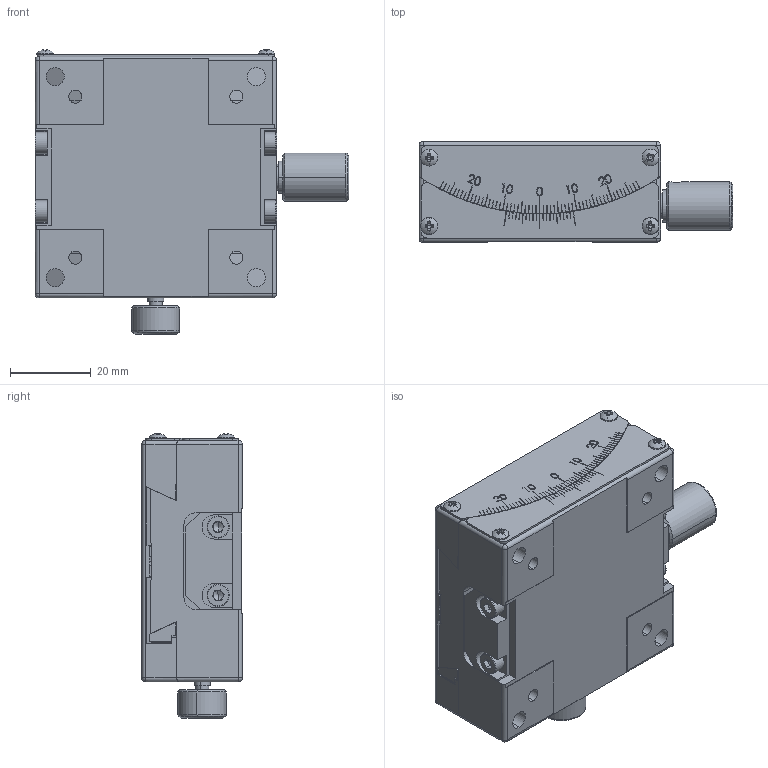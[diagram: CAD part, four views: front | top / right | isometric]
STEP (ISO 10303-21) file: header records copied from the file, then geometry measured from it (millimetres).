
FILE_DESCRIPTION (( 'STEP AP203' ), '1' );
FILE_NAME ('MXG6-35CS.STEP', '2013-04-18T00:48:59', ( '123' ), ( '' ), 'SwSTEP 2.0', 'SolidWorks 2013', '' );
FILE_SCHEMA (( 'CONFIG_CONTROL_DESIGN' ));
Length unit declared in the file: millimetre
Products named in the file (3): Group2^MXG6-35CS; MXG6-35CS; Group1^MXG6-35CS
Assembly tree (2 placements, depth 2):
  MXG6-35CS
    Group1^MXG6-35CS
    Group2^MXG6-35CS
Bounding box: 78 x 25 x 70.63 mm (x, y, z)
Volume: 87990.4 mm3; surface area: 31132.6 mm2
Topology: 8 solids, 8 shells, 918 faces, 2402 edges, 1541 vertices
Faces by surface type: plane 611, cylinder 152, bspline 60, cone 59, torus 20, sphere 16
Entity records: 33311 total; most frequent: CARTESIAN_POINT 10597, ORIENTED_EDGE 4756, DIRECTION 4495, EDGE_CURVE 2378, LINE 1541, VERTEX_POINT 1541, VECTOR 1541, AXIS2_PLACEMENT_3D 1477
